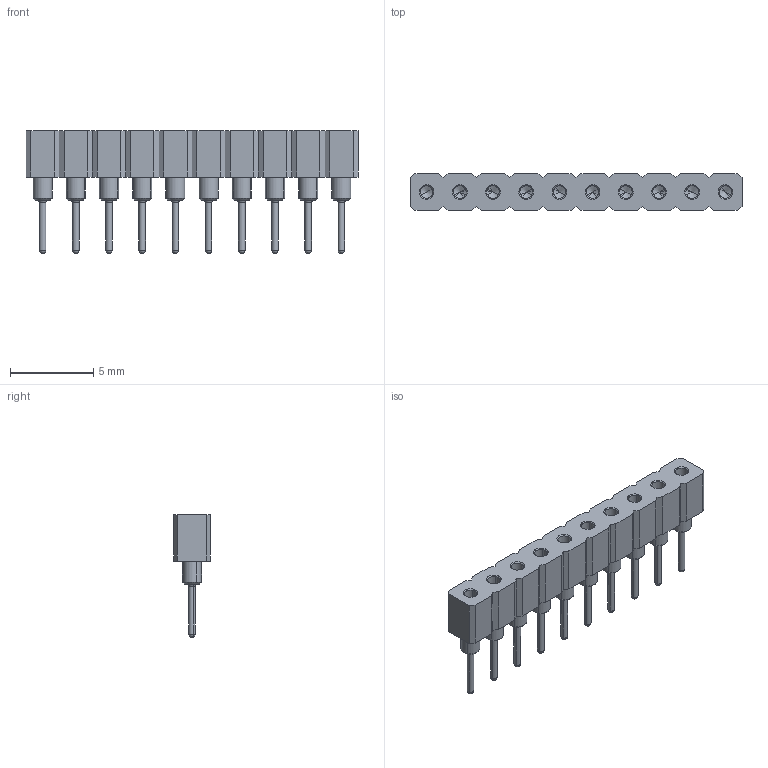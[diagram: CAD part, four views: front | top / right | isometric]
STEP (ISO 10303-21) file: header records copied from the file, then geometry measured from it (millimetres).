
FILE_DESCRIPTION (( 'STEP AP203' ), '1' );
FILE_NAME ('PM200-1-10-Z-3.0-XX-C (2.0 等齬 齬譫 埴眻渀-HCTL).STEP', '2025-07-31T06:59:44', ( '' ), ( '' ), 'SwSTEP 2.0', 'SolidWorks 2022', '' );
FILE_SCHEMA (( 'CONFIG_CONTROL_DESIGN' ));
Length unit declared in the file: millimetre
Products named in the file (1): PM200-1-10-Z-3.0-XX-C (2.0 等齬 齬譫 埴眻渀-HCTL)
Bounding box: 20 x 2.2 x 7.4 mm (x, y, z)
Volume: 120.1 mm3; surface area: 401.5 mm2
Topology: 1 solids, 1 shells, 320 faces, 762 edges, 436 vertices
Faces by surface type: cylinder 104, cone 84, plane 84, torus 28, sphere 20
Entity records: 8915 total; most frequent: DIRECTION 1692, CARTESIAN_POINT 1467, ORIENTED_EDGE 1424, EDGE_CURVE 712, AXIS2_PLACEMENT_3D 659, VERTEX_POINT 434, LINE 374, VECTOR 374
